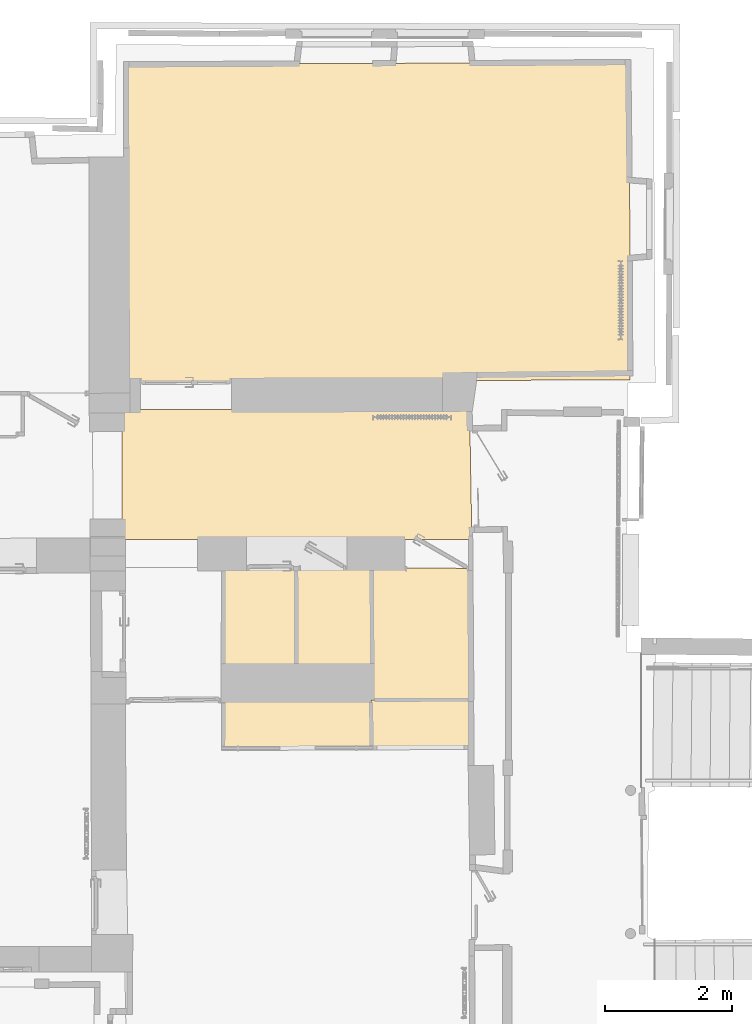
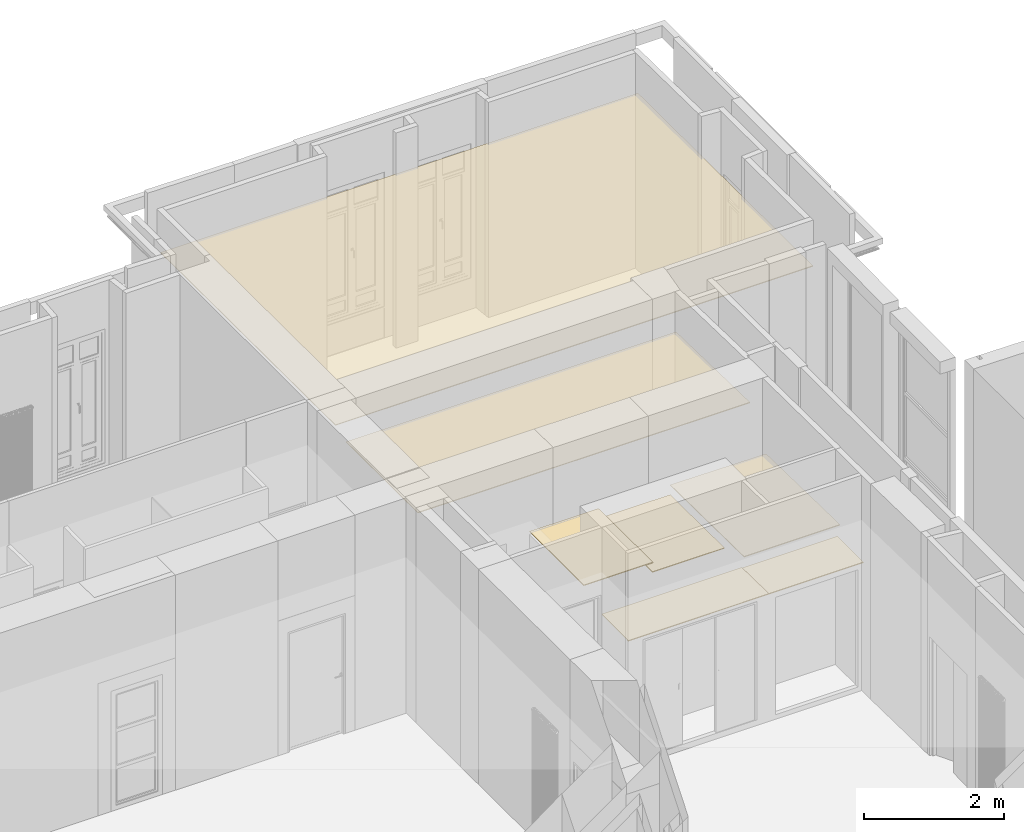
# One storey, part 56 of 66: 7 coverings.
"""IFC2X3 building model written with IfcOpenShell, lengths in centimetres."""

import ifcopenshell
import ifcopenshell.guid

model = None  # the IFC model being written
_history = None  # IfcOwnerHistory: only IFC2X3 demands one
_inside = {}  # id of a spatial element -> (the spatial element, [elements in it])
_under = {}  # id of a project, library or spatial element -> (it, [spatial elements below it])
_declared = {}  # id of a project -> (the project, [libraries it declares])
_typed = {}  # id of a type object -> (the type object, [elements of that type])
_made_of = {}  # id of a material, layer set ... -> (it, [elements and type objects made of it])


def new_model(schema):
    """Start an empty IFC model of exactly this schema.

    Asked for "IFC4X3", IfcOpenShell would pick the latest addendum, in which some entities
    have other attributes; the version numbers below select the first issue.
    IFC2X3 requires an IfcOwnerHistory on every rooted entity: one is made here for all.
    """
    global model, _history
    if schema == "IFC4X3":
        model = ifcopenshell.file(schema_version=(4, 3, 0, 0))
    else:
        model = ifcopenshell.file(schema=schema)
    _inside.clear()
    _under.clear()
    _declared.clear()
    _typed.clear()
    _made_of.clear()
    _history = None
    if model.schema == "IFC2X3":
        org = make("IfcOrganization", Name="unknown")
        user = make(
            "IfcPersonAndOrganization",
            ThePerson=make("IfcPerson", FamilyName="unknown"),
            TheOrganization=org,
        )
        app = make(
            "IfcApplication",
            ApplicationDeveloper=org,
            Version="unknown",
            ApplicationFullName="unknown",
            ApplicationIdentifier="unknown",
        )
        _history = make(
            "IfcOwnerHistory",
            OwningUser=user,
            OwningApplication=app,
            ChangeAction="ADDED",
            CreationDate=0,
        )
    return model


def make(cls, **values):
    """One entity of the class cls with the attributes given. An attribute that is None is left unset."""
    return model.create_entity(
        cls, **{name: value for name, value in values.items() if value is not None}
    )


def entity(cls, *values):
    """Any entity or typed value of the class cls, its attributes in the order of the schema. None: left unset."""
    e = model.create_entity(cls)
    for i, value in enumerate(values):
        if value is not None:
            e[i] = value
    return e


def rooted(cls, **values):
    """An entity with a GlobalId (a new one), such as an element, a storey or a relation."""
    return make(cls, GlobalId=ifcopenshell.guid.new(), OwnerHistory=_history, **values)


def si_unit(unit_type, name, prefix=None):
    """IfcSIUnit, for example si_unit("LENGTHUNIT", "METRE", prefix="MILLI")."""
    return make("IfcSIUnit", UnitType=unit_type, Prefix=prefix, Name=name)


def converted_unit(unit_type, name, factor, base, dimensions=None, offset=None):
    """IfcConversionBasedUnit, such as the inch: factor (a typed value) times the base unit."""
    return make(
        "IfcConversionBasedUnit"
        if offset is None
        else "IfcConversionBasedUnitWithOffset",
        ConversionOffset=offset,
        Dimensions=None
        if dimensions is None
        else entity("IfcDimensionalExponents", *dimensions),
        UnitType=unit_type,
        Name=name,
        ConversionFactor=make(
            "IfcMeasureWithUnit", ValueComponent=factor, UnitComponent=base
        ),
    )


def assignment(units):
    """IfcUnitAssignment: the units of a project."""
    return None if units is None else make("IfcUnitAssignment", Units=units)


def point(xyz):
    """IfcCartesianPoint."""
    return None if xyz is None else make("IfcCartesianPoint", Coordinates=xyz)


def direction(xyz):
    """IfcDirection."""
    return None if xyz is None else make("IfcDirection", DirectionRatios=xyz)


def frame(location, z_axis=None, x_axis=None):
    """IfcAxis2Placement3D, a coordinate frame: its origin and axes. An axis left out is left unset."""
    return make(
        "IfcAxis2Placement3D",
        Location=point(location),
        Axis=direction(z_axis),
        RefDirection=direction(x_axis),
    )


def origin():
    """The frame at (0, 0, 0) with its axes left unset."""
    return frame((0.0, 0.0, 0.0))


def origin_with_axes():
    """The frame at (0, 0, 0) with the z axis (0, 0, 1) and the x axis (1, 0, 0) written out."""
    return frame((0.0, 0.0, 0.0), z_axis=(0.0, 0.0, 1.0), x_axis=(1.0, 0.0, 0.0))


def place(relative_to, where):
    """IfcLocalPlacement: puts the frame where relative to a parent placement (None: the world)."""
    return make(
        "IfcLocalPlacement", PlacementRelTo=relative_to, RelativePlacement=where
    )


def context(
    kind, dimensions, precision=None, world=None, true_north=None, identifier=None
):
    """IfcGeometricRepresentationContext, for example the 3D "Model" context."""
    return make(
        "IfcGeometricRepresentationContext",
        ContextIdentifier=identifier,
        ContextType=kind,
        CoordinateSpaceDimension=dimensions,
        Precision=precision,
        WorldCoordinateSystem=world,
        TrueNorth=true_north,
    )


def subcontext(parent, identifier, kind, view, scale=None):
    """IfcGeometricRepresentationSubContext, for example "Body" below "Model"."""
    return make(
        "IfcGeometricRepresentationSubContext",
        ContextIdentifier=identifier,
        ContextType=kind,
        ParentContext=parent,
        TargetScale=scale,
        TargetView=view,
    )


def project(units=None, contexts=None):
    """IfcProject with its units and contexts."""
    return rooted(
        "IfcProject",
        Name="project",
        RepresentationContexts=contexts,
        UnitsInContext=assignment(units),
    )


def spatial(cls, under=None, at=None, **own):
    """A site, building, storey or space (cls), placed at a placement, below another one or the project."""
    s = rooted(cls, ObjectPlacement=at, **own)
    if under is not None:
        _under.setdefault(under.id(), (under, []))[1].append(s)
    return s


def faces_of(points, faces, orient=None, outer=None):
    """IfcFace entities. A face is a list of loops; a loop is a list of indices into points, from 0.

    orient and outer hold one flag for each loop. By default every Orientation is true, the
    first loop of a face is its IfcFaceOuterBound and the others are IfcFaceBound.
    """
    made = []
    for i, loops in enumerate(faces):
        bounds = []
        for j, loop in enumerate(loops):
            is_outer = j == 0 if outer is None else outer[i][j]
            bounds.append(
                make(
                    "IfcFaceOuterBound" if is_outer else "IfcFaceBound",
                    Bound=make("IfcPolyLoop", Polygon=[points[k] for k in loop]),
                    Orientation=True if orient is None else orient[i][j],
                )
            )
        made.append(make("IfcFace", Bounds=bounds))
    return made


def faceted_brep(points, faces, orient=None, outer=None, voids=None):
    """IfcFacetedBrep: a solid bounded by flat faces; with voids (closed shells), ...WithVoids."""
    shared = [point(p) for p in points]
    hull = make("IfcClosedShell", CfsFaces=faces_of(shared, faces, orient, outer))
    if voids is None:
        return make("IfcFacetedBrep", Outer=hull)
    return make(
        "IfcFacetedBrepWithVoids",
        Outer=hull,
        Voids=[
            make(cls, CfsFaces=faces_of(shared, fs, o, b)) for cls, fs, o, b in voids
        ],
    )


def shape(context_of_items, identifier, shape_type, items):
    """IfcShapeRepresentation: the items that make up one representation, for example the "Body"."""
    return make(
        "IfcShapeRepresentation",
        ContextOfItems=context_of_items,
        RepresentationIdentifier=identifier,
        RepresentationType=shape_type,
        Items=items,
    )


def material(Name=None, Category=None):
    """IfcMaterial."""
    return make("IfcMaterial", Name=Name, Category=Category)


def made_of(thing, what):
    """Note that an element or type object is made of a material, layer set ...; save() writes the relation."""
    if what is not None:
        _made_of.setdefault(what.id(), (what, []))[1].append(thing)
    return thing


def element(
    cls,
    number,
    at=None,
    inside=None,
    cuts=None,
    type_object=None,
    material=None,
    context=None,
    identifier="Body",
    shape_type=None,
    held_by="IfcProductDefinitionShape",
    body=None,
    shapes=None,
    **own,
):
    """One element of the class cls, such as IfcWall. Its Tag is "e" and its number.

    at: its placement. inside: the storey or other place that contains it. cuts: it is an
    opening in that element (IfcRelVoidsElement). A single representation is given by context,
    identifier, shape_type and body (its items); several are given by shapes. held_by: the class
    of the entity that holds the representations. save() writes the other relations.
    """
    e = rooted(cls, Tag="e%d" % number, ObjectPlacement=at, **own)
    if body is not None:
        shapes = [shape(context, identifier, shape_type, body)]
    if shapes is not None:
        e.Representation = make(held_by, Representations=shapes)
    if inside is not None:
        _inside.setdefault(inside.id(), (inside, []))[1].append(e)
    if cuts is not None:
        rooted(
            "IfcRelVoidsElement", RelatingBuildingElement=cuts, RelatedOpeningElement=e
        )
    if type_object is not None:
        _typed.setdefault(type_object.id(), (type_object, []))[1].append(e)
    return made_of(e, material)


def aggregate(whole, parts):
    """IfcRelAggregates: a whole, such as a stair, and the parts it consists of."""
    return rooted("IfcRelAggregates", RelatingObject=whole, RelatedObjects=parts)


def save(model, path):
    """Write the relations noted so far, then the file.

    IfcRelAggregates (storeys below a building ...), IfcRelContainedInSpatialStructure (elements
    in a storey), IfcRelDefinesByType, IfcRelAssociatesMaterial and IfcRelDeclares: one each for
    every whole, place, type object, material and project.
    """
    for whole, parts in _under.values():
        aggregate(whole, parts)
    for where, things in _inside.values():
        rooted(
            "IfcRelContainedInSpatialStructure",
            RelatedElements=things,
            RelatingStructure=where,
        )
    for kind, things in _typed.values():
        rooted("IfcRelDefinesByType", RelatedObjects=things, RelatingType=kind)
    for what, things in _made_of.values():
        rooted("IfcRelAssociatesMaterial", RelatedObjects=things, RelatingMaterial=what)
    for by, libraries in _declared.values():
        rooted("IfcRelDeclares", RelatingContext=by, RelatedDefinitions=libraries)
    model.write(path)


model = new_model("IFC2X3")

# Units and contexts
model_context = context("Model", 3, precision=0.0001, world=origin(), true_north=direction((0.225632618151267, 0.974212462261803, 0.0)))
body_context = subcontext(model_context, "Body", "Model", "MODEL_VIEW")
ifc_project = project(units=[si_unit("LENGTHUNIT", "METRE", prefix="CENTI"), si_unit("AREAUNIT", "SQUARE_METRE", prefix="CENTI"), si_unit("VOLUMEUNIT", "CUBIC_METRE", prefix="CENTI"), converted_unit("PLANEANGLEUNIT", "DEGREE", entity("IfcRatioMeasure", 0.0174532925), si_unit("PLANEANGLEUNIT", "RADIAN"), dimensions=[0, 0, 0, 0, 0, 0, 0])], contexts=[model_context])

# Site, building, storey
site_placement = place(None, origin_with_axes())
site = spatial("IfcSite", under=ifc_project, at=site_placement, Name="Default Site", CompositionType="ELEMENT")
building_placement = place(site_placement, origin_with_axes())
building = spatial("IfcBuilding", under=site, at=building_placement, Name="Default Building", CompositionType="ELEMENT")
storey_placement = place(building_placement, frame((0.0, 0.0, 477.795358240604), z_axis=(0.0, 0.0, 1.0), x_axis=(1.0, 0.0, 0.0)))
storey = spatial("IfcBuildingStorey", under=building, at=storey_placement, Name="Niveau 1", CompositionType="ELEMENT", Elevation=477.795358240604)

# Coverings
ifc_material = material(Name="Blanc")
covering_1_placement = place(storey_placement, frame((291.169037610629, 705.314146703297, 299.806157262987), z_axis=(0.0, 0.0, 1.0), x_axis=(1.0, 0.0, 0.0)))
element("IfcCovering", 1, at=covering_1_placement, inside=storey, material=ifc_material, Name="Faux-plafond 103157", PredefinedType="CEILING", context=body_context, shape_type="Brep", body=[
    faceted_brep([(1.51268026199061, -498.131167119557, 1.40000656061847), (792.064986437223, -496.107327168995, 1.40000656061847), (790.788874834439, 2.37423258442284, 1.40000656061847), (9.74502283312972e-06, 1.26900136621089e-05, 1.40000656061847), (9.74502283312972e-06, 1.26900136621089e-05, 1.26641340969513e-05), (790.788874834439, 2.37423258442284, 1.26641340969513e-05), (792.064986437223, -496.107327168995, 1.26641340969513e-05), (1.51268026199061, -498.131167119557, 1.26641340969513e-05), (792.064986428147, -496.107323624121, 1.26641340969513e-05), (792.064986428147, -496.107323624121, 1.40000656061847), (790.788854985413, 2.37423253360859, 1.26641340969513e-05), (790.788854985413, 2.37423253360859, 1.40000656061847), (9.76702705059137e-06, 5.3610225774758e-06, 1.26641340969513e-05), (9.76702705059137e-06, 5.3610225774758e-06, 1.40000656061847), (1.51268976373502, -498.131167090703, 1.26641340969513e-05), (1.51268976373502, -498.131167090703, 1.40000656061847)], [[[0, 1, 2, 3]], [[4, 5, 6, 7]], [[7, 8, 9, 0]], [[6, 10, 11, 1]], [[5, 12, 13, 2]], [[4, 14, 15, 3]]]),
])
covering_2_placement = place(storey_placement, frame((676.185779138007, -293.242153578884, 219.115015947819), z_axis=(0.0, 0.0, 1.0), x_axis=(1.0, 0.0, 0.0)))
element("IfcCovering", 2, at=covering_2_placement, inside=storey, material=ifc_material, Name="Faux-plafond 121127", PredefinedType="CEILING", context=body_context, shape_type="Brep", body=[
    faceted_brep([(1.00919766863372, -74.961057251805, 1.40000102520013), (157.519741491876, -74.3140369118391, 1.40000102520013), (157.319183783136, 0.329932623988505, 1.40000102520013), (1.95070126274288e-05, 8.99422776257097e-06, 1.40000102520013), (1.95070126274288e-05, 8.99422776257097e-06, 7.12871575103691e-06), (157.319183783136, 0.329932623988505, 7.12871575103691e-06), (157.519741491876, -74.3140369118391, 7.12871575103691e-06), (1.00919766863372, -74.961057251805, 7.12871575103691e-06), (157.519741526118, -74.3140451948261, 7.12871575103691e-06), (157.519741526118, -74.3140451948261, 1.40000102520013), (157.319127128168, 0.329932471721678, 7.12871575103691e-06), (157.319127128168, 0.329932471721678, 1.40000102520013), (1.95361714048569e-05, -4.9091146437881e-06, 7.12871575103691e-06), (1.95361714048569e-05, -4.9091146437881e-06, 1.40000102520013), (1.00919831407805, -74.9610572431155, 7.12871575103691e-06), (1.00919831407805, -74.9610572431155, 1.40000102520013)], [[[0, 1, 2, 3]], [[4, 5, 6, 7]], [[7, 8, 9, 0]], [[6, 10, 11, 1]], [[5, 12, 13, 2]], [[4, 14, 15, 3]]]),
])
covering_3_placement = place(storey_placement, frame((444.491601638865, -292.401672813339, 219.115015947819), z_axis=(0.0, 0.0, 1.0), x_axis=(1.0, 0.0, 0.0)))
element("IfcCovering", 3, at=covering_3_placement, inside=storey, material=ifc_material, Name="Faux-plafond 121128", PredefinedType="CEILING", context=body_context, shape_type="Brep", body=[
    faceted_brep([(0.208877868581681, 0.000430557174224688, 1.40000102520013), (-0.215078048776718, -76.7644152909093, 1.40000102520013), (232.703375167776, -75.8015380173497, 1.40000102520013), (231.676315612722, 0.485874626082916, 1.40000102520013), (231.676315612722, 0.485874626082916, 7.12871575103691e-06), (232.703375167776, -75.8015380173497, 7.12871575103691e-06), (-0.215078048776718, -76.7644152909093, 7.12871575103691e-06), (0.208877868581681, 0.000430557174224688, 7.12871575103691e-06), (-0.215056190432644, -76.764415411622, 7.12871575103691e-06), (-0.215056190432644, -76.764415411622, 1.40000102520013), (232.703375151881, -75.8015341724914, 7.12871575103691e-06), (232.703375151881, -75.8015341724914, 1.40000102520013), (231.676340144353, 0.485874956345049, 7.12871575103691e-06), (231.676340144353, 0.485874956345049, 1.40000102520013), (0.208877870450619, 0.000429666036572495, 7.12871575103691e-06), (0.208877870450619, 0.000429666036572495, 1.40000102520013)], [[[0, 1, 2, 3]], [[4, 5, 6, 7]], [[7, 8, 9, 0]], [[6, 10, 11, 1]], [[5, 12, 13, 2]], [[4, 14, 15, 3]]]),
])
covering_4_placement = place(storey_placement, frame((284.695279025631, 162.592699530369, 300.115015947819), z_axis=(0.0, 0.0, 1.0), x_axis=(1.0, 0.0, 0.0)))
element("IfcCovering", 4, at=covering_4_placement, inside=storey, material=ifc_material, Name="Faux-plafond 103156", PredefinedType="CEILING", context=body_context, shape_type="Brep", body=[
    faceted_brep([(0.685752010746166, -204.233696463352, 1.39999530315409), (549.914515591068, -203.739743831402, 1.39999530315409), (546.330226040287, 1.86716079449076, 1.39999530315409), (-1.13483236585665e-05, -2.38681416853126e-06, 1.39999530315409), (-1.13483236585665e-05, -2.38681416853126e-06, 1.40666971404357e-06), (546.330226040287, 1.86716079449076, 1.40666971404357e-06), (549.914515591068, -203.739743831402, 1.40666971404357e-06), (0.685752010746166, -204.233696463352, 1.40666971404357e-06), (549.914515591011, -203.739743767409, 1.40666971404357e-06), (549.914515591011, -203.739743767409, 1.39999530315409), (546.330208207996, 1.8671604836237, 1.40666971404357e-06), (546.330208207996, 1.8671604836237, 1.39999530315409), (-1.13690721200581e-05, 3.68418640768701e-06, 1.40666971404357e-06), (-1.13690721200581e-05, 3.68418640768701e-06, 1.39999530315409), (0.68574441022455, -204.233696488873, 1.40666971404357e-06), (0.68574441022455, -204.233696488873, 1.39999530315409)], [[[0, 1, 2, 3]], [[4, 5, 6, 7]], [[7, 8, 9, 0]], [[6, 10, 11, 1]], [[5, 12, 13, 2]], [[4, 14, 15, 3]]]),
])
covering_5_placement = place(storey_placement, frame((558.507118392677, -85.3953779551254, 238.115028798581), z_axis=(0.0, 0.0, 1.0), x_axis=(1.0, 0.0, 0.0)))
element("IfcCovering", 5, at=covering_5_placement, inside=storey, material=ifc_material, Name="Faux-plafond 99982", PredefinedType="CEILING", context=body_context, shape_type="Brep", body=[
    faceted_brep([(-113.696346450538, -155.259829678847, 1.39999389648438), (0.501479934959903, -155.15711895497, 1.39999389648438), (-9.70432232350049e-06, 8.07510391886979e-08, 1.39999389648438), (-113.835869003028, -0.102376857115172, 1.39999389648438), (-113.835869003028, -0.102376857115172, 0.0), (-9.70432232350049e-06, 8.07510391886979e-08, 0.0), (0.501479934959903, -155.15711895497, 0.0), (-113.696346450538, -155.259829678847, 0.0), (0.501479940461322, -155.157125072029, 0.0), (0.501479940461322, -155.157125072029, 1.39999389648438), (-7.83348854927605e-06, 8.67978146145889e-08, 0.0), (-7.83348854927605e-06, 8.67978146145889e-08, 1.39999389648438), (-113.835869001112, -0.102378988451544, 0.0), (-113.835869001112, -0.102378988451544, 1.39999389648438), (-113.696327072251, -155.259829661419, 0.0), (-113.696327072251, -155.259829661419, 1.39999389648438)], [[[0, 1, 2, 3]], [[4, 5, 6, 7]], [[7, 8, 9, 0]], [[6, 10, 11, 1]], [[5, 12, 13, 2]], [[4, 14, 15, 3]]]),
])
covering_6_placement = place(storey_placement, frame((677.19825329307, -85.2886322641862, 237.815015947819), z_axis=(0.0, 0.0, 1.0), x_axis=(1.0, 0.0, 0.0)))
element("IfcCovering", 6, at=covering_6_placement, inside=storey, material=ifc_material, Name="Faux-plafond 103096", PredefinedType="CEILING", context=body_context, shape_type="Brep", body=[
    faceted_brep([(2.07730708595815, -207.947051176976, 1.39998080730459), (160.999931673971, -207.613742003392, 1.39998080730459), (157.718147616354, -1.35815704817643, 1.39998080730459), (1.36899620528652e-05, 3.48140094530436e-07, 1.39998080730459), (1.36899620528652e-05, 3.48140094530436e-07, -1.30891797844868e-05), (157.718147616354, -1.35815704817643, -1.30891797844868e-05), (160.999931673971, -207.613742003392, -1.30891797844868e-05), (2.07730708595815, -207.947051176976, -1.30891797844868e-05), (160.999931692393, -207.613750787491, -1.30891797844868e-05), (160.999931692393, -207.613750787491, 1.39998080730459), (157.718099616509, -1.35815781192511, -1.30891797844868e-05), (157.718099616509, -1.35815781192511, 1.39998080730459), (1.36774073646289e-05, -1.10979411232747e-06, -1.30891797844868e-05), (1.36774073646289e-05, -1.10979411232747e-06, 1.39998080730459), (2.0773164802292, -207.947051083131, -1.30891797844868e-05), (2.0773164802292, -207.947051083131, 1.39998080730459)], [[[0, 1, 2, 3]], [[4, 5, 6, 7]], [[7, 8, 9, 0]], [[6, 10, 11, 1]], [[5, 12, 13, 2]], [[4, 14, 15, 3]]]),
])
covering_7_placement = place(storey_placement, frame((558.507118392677, -85.3953779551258, 220.615015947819), z_axis=(0.0, 0.0, 1.0), x_axis=(1.0, 0.0, 0.0)))
element("IfcCovering", 7, at=covering_7_placement, inside=storey, material=ifc_material, Name="Faux-plafond 99981", PredefinedType="CEILING", context=body_context, shape_type="Brep", body=[
    faceted_brep([(0.497951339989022, -154.062157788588, 1.39998767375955), (119.725503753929, -153.800469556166, 1.39998767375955), (118.691148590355, 0.106746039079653, 1.39998767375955), (-9.70432250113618e-06, 8.0751405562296e-08, 1.39998767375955), (-9.70432250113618e-06, 8.0751405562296e-08, -6.22272482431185e-06), (118.691148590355, 0.106746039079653, -6.22272482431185e-06), (119.725503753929, -153.800469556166, -6.22272482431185e-06), (0.497951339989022, -154.062157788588, -6.22272482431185e-06), (119.725503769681, -153.80047673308, -6.22272482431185e-06), (119.725503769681, -153.80047673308, 1.39998767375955), (118.691121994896, 0.106745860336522, -6.22272482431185e-06), (118.691121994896, 0.106745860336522, 1.39998767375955), (-9.70454042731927e-06, 3.23064746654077e-07, -6.22272482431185e-06), (-9.70454042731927e-06, 3.23064746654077e-07, 1.39998767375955), (0.497939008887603, -154.062157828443, -6.22272482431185e-06), (0.497939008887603, -154.062157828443, 1.39998767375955)], [[[0, 1, 2, 3]], [[4, 5, 6, 7]], [[7, 8, 9, 0]], [[6, 10, 11, 1]], [[5, 12, 13, 2]], [[4, 14, 15, 3]]]),
])

save(model, "model.ifc")
